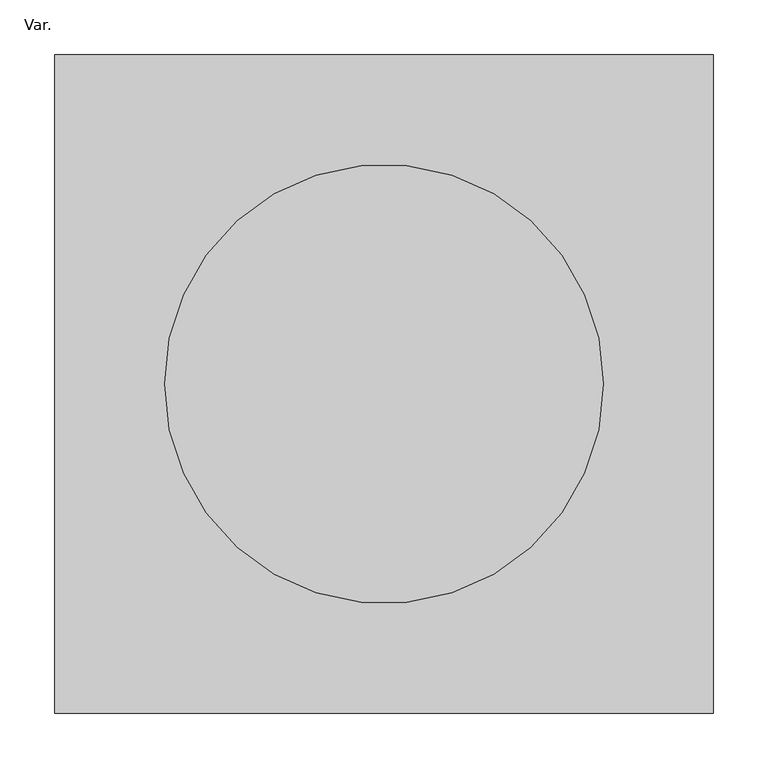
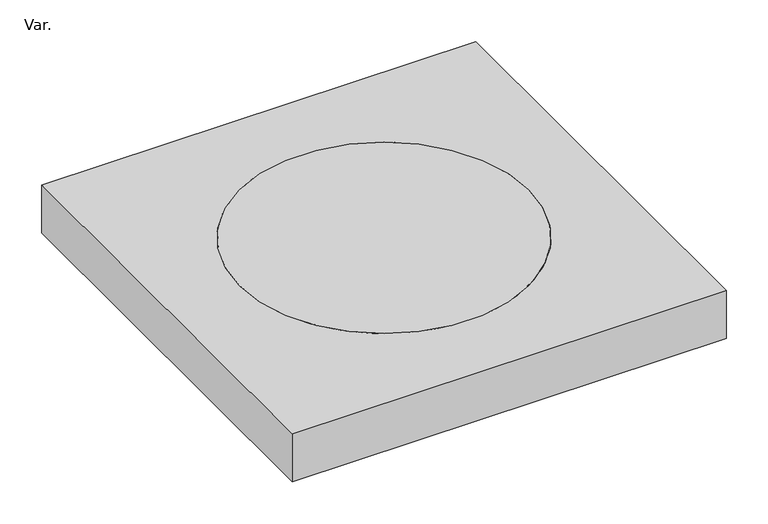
"""IFC4 building model written with IfcOpenShell, lengths in millimetres: pipe fitting geometry, NLRS-90-PIF_Z_DO_NOT_USE_Wavin PVC Buitenriolering Betoninlaat (Nested) : Var.."""

import ifcopenshell
import ifcopenshell.guid

model = None  # the IFC model being written
_history = None  # IfcOwnerHistory: only IFC2X3 demands one
_inside = {}  # id of a spatial element -> (the spatial element, [elements in it])
_under = {}  # id of a project, library or spatial element -> (it, [spatial elements below it])
_declared = {}  # id of a project -> (the project, [libraries it declares])
_typed = {}  # id of a type object -> (the type object, [elements of that type])
_made_of = {}  # id of a material, layer set ... -> (it, [elements and type objects made of it])


def new_model(schema):
    """Start an empty IFC model of exactly this schema.

    Asked for "IFC4X3", IfcOpenShell would pick the latest addendum, in which some entities
    have other attributes; the version numbers below select the first issue.
    IFC2X3 requires an IfcOwnerHistory on every rooted entity: one is made here for all.
    """
    global model, _history
    if schema == "IFC4X3":
        model = ifcopenshell.file(schema_version=(4, 3, 0, 0))
    else:
        model = ifcopenshell.file(schema=schema)
    _inside.clear()
    _under.clear()
    _declared.clear()
    _typed.clear()
    _made_of.clear()
    _history = None
    if model.schema == "IFC2X3":
        org = make("IfcOrganization", Name="unknown")
        user = make(
            "IfcPersonAndOrganization",
            ThePerson=make("IfcPerson", FamilyName="unknown"),
            TheOrganization=org,
        )
        app = make(
            "IfcApplication",
            ApplicationDeveloper=org,
            Version="unknown",
            ApplicationFullName="unknown",
            ApplicationIdentifier="unknown",
        )
        _history = make(
            "IfcOwnerHistory",
            OwningUser=user,
            OwningApplication=app,
            ChangeAction="ADDED",
            CreationDate=0,
        )
    return model


def make(cls, **values):
    """One entity of the class cls with the attributes given. An attribute that is None is left unset."""
    return model.create_entity(
        cls, **{name: value for name, value in values.items() if value is not None}
    )


def rooted(cls, **values):
    """An entity with a GlobalId (a new one), such as an element, a storey or a relation."""
    return make(cls, GlobalId=ifcopenshell.guid.new(), OwnerHistory=_history, **values)


def si_unit(unit_type, name, prefix=None):
    """IfcSIUnit, for example si_unit("LENGTHUNIT", "METRE", prefix="MILLI")."""
    return make("IfcSIUnit", UnitType=unit_type, Prefix=prefix, Name=name)


def assignment(units):
    """IfcUnitAssignment: the units of a project."""
    return None if units is None else make("IfcUnitAssignment", Units=units)


def point(xyz):
    """IfcCartesianPoint."""
    return None if xyz is None else make("IfcCartesianPoint", Coordinates=xyz)


def direction(xyz):
    """IfcDirection."""
    return None if xyz is None else make("IfcDirection", DirectionRatios=xyz)


def frame(location, z_axis=None, x_axis=None):
    """IfcAxis2Placement3D, a coordinate frame: its origin and axes. An axis left out is left unset."""
    return make(
        "IfcAxis2Placement3D",
        Location=point(location),
        Axis=direction(z_axis),
        RefDirection=direction(x_axis),
    )


def frame_2d(location, x_axis=None):
    """IfcAxis2Placement2D, a coordinate frame in the plane: its origin and x axis."""
    return make(
        "IfcAxis2Placement2D", Location=point(location), RefDirection=direction(x_axis)
    )


def origin():
    """The frame at (0, 0, 0) with its axes left unset."""
    return frame((0.0, 0.0, 0.0))


def origin_2d():
    """The frame at (0, 0) in the plane with its x axis left unset."""
    return frame_2d((0.0, 0.0))


def place(relative_to, where):
    """IfcLocalPlacement: puts the frame where relative to a parent placement (None: the world)."""
    return make(
        "IfcLocalPlacement", PlacementRelTo=relative_to, RelativePlacement=where
    )


def context(
    kind, dimensions, precision=None, world=None, true_north=None, identifier=None
):
    """IfcGeometricRepresentationContext, for example the 3D "Model" context."""
    return make(
        "IfcGeometricRepresentationContext",
        ContextIdentifier=identifier,
        ContextType=kind,
        CoordinateSpaceDimension=dimensions,
        Precision=precision,
        WorldCoordinateSystem=world,
        TrueNorth=true_north,
    )


def project(units=None, contexts=None):
    """IfcProject with its units and contexts."""
    return rooted(
        "IfcProject",
        Name="project",
        RepresentationContexts=contexts,
        UnitsInContext=assignment(units),
    )


def spatial(cls, under=None, at=None, **own):
    """A site, building, storey or space (cls), placed at a placement, below another one or the project."""
    s = rooted(cls, ObjectPlacement=at, **own)
    if under is not None:
        _under.setdefault(under.id(), (under, []))[1].append(s)
    return s


def polyline(points):
    """IfcPolyline through the points."""
    return make("IfcPolyline", Points=[point(p) for p in points])


def circle_curve(where, radius):
    """IfcCircle in the frame where."""
    return make("IfcCircle", Position=where, Radius=radius)


def trimmed(basis, trim1, trim2, sense, master):
    """IfcTrimmedCurve: the piece of a basis curve between two trims."""
    return make(
        "IfcTrimmedCurve",
        BasisCurve=basis,
        Trim1=trim1,
        Trim2=trim2,
        SenseAgreement=sense,
        MasterRepresentation=master,
    )


def segment(curve, same_sense, transition):
    """IfcCompositeCurveSegment."""
    return make(
        "IfcCompositeCurveSegment",
        Transition=transition,
        SameSense=same_sense,
        ParentCurve=curve,
    )


def composite_curve(segments, self_intersect=None):
    """IfcCompositeCurve: segments joined end to end."""
    return make("IfcCompositeCurve", Segments=segments, SelfIntersect=self_intersect)


def outline(outer, holes=None, kind="AREA"):
    """IfcArbitraryClosedProfileDef: a profile drawn as a closed curve; with holes, ...WithVoids."""
    if holes is None:
        return make("IfcArbitraryClosedProfileDef", ProfileType=kind, OuterCurve=outer)
    return make(
        "IfcArbitraryProfileDefWithVoids",
        ProfileType=kind,
        OuterCurve=outer,
        InnerCurves=holes,
    )


def extrude(swept, where, along, depth):
    """IfcExtrudedAreaSolid: the profile swept, set in the frame where, extruded along a direction by depth."""
    return make(
        "IfcExtrudedAreaSolid",
        SweptArea=swept,
        Position=where,
        ExtrudedDirection=direction(along),
        Depth=depth,
    )


def shape(context_of_items, identifier, shape_type, items):
    """IfcShapeRepresentation: the items that make up one representation, for example the "Body"."""
    return make(
        "IfcShapeRepresentation",
        ContextOfItems=context_of_items,
        RepresentationIdentifier=identifier,
        RepresentationType=shape_type,
        Items=items,
    )


def source(mapping_origin, context_of_items, identifier, shape_type, items):
    """IfcRepresentationMap: a shape defined once, which mapped items show again and again."""
    return make(
        "IfcRepresentationMap",
        MappingOrigin=mapping_origin,
        MappedRepresentation=shape(context_of_items, identifier, shape_type, items),
    )


def transform(
    local_origin,
    x_axis=None,
    y_axis=None,
    z_axis=None,
    scale=None,
    scale2=None,
    scale3=None,
    uniform=True,
):
    """IfcCartesianTransformationOperator3D, or its non-uniform kind. x_axis, y_axis, z_axis: its Axis1, 2, 3."""
    if uniform:
        return make(
            "IfcCartesianTransformationOperator3D",
            Axis1=direction(x_axis),
            Axis2=direction(y_axis),
            LocalOrigin=point(local_origin),
            Scale=scale,
            Axis3=direction(z_axis),
        )
    return make(
        "IfcCartesianTransformationOperator3DnonUniform",
        Axis1=direction(x_axis),
        Axis2=direction(y_axis),
        LocalOrigin=point(local_origin),
        Scale=scale,
        Axis3=direction(z_axis),
        Scale2=scale2,
        Scale3=scale3,
    )


def mapped(mapping_source, mapping_target):
    """IfcMappedItem: shows the shape of a source again, moved by a transform."""
    return make(
        "IfcMappedItem", MappingSource=mapping_source, MappingTarget=mapping_target
    )


def made_of(thing, what):
    """Note that an element or type object is made of a material, layer set ...; save() writes the relation."""
    if what is not None:
        _made_of.setdefault(what.id(), (what, []))[1].append(thing)
    return thing


def element(
    cls,
    number,
    at=None,
    inside=None,
    cuts=None,
    type_object=None,
    material=None,
    context=None,
    identifier="Body",
    shape_type=None,
    held_by="IfcProductDefinitionShape",
    body=None,
    shapes=None,
    **own,
):
    """One element of the class cls, such as IfcWall. Its Tag is "e" and its number.

    at: its placement. inside: the storey or other place that contains it. cuts: it is an
    opening in that element (IfcRelVoidsElement). A single representation is given by context,
    identifier, shape_type and body (its items); several are given by shapes. held_by: the class
    of the entity that holds the representations. save() writes the other relations.
    """
    e = rooted(cls, Tag="e%d" % number, ObjectPlacement=at, **own)
    if body is not None:
        shapes = [shape(context, identifier, shape_type, body)]
    if shapes is not None:
        e.Representation = make(held_by, Representations=shapes)
    if inside is not None:
        _inside.setdefault(inside.id(), (inside, []))[1].append(e)
    if cuts is not None:
        rooted(
            "IfcRelVoidsElement", RelatingBuildingElement=cuts, RelatedOpeningElement=e
        )
    if type_object is not None:
        _typed.setdefault(type_object.id(), (type_object, []))[1].append(e)
    return made_of(e, material)


def aggregate(whole, parts):
    """IfcRelAggregates: a whole, such as a stair, and the parts it consists of."""
    return rooted("IfcRelAggregates", RelatingObject=whole, RelatedObjects=parts)


def save(model, path):
    """Write the relations noted so far, then the file.

    IfcRelAggregates (storeys below a building ...), IfcRelContainedInSpatialStructure (elements
    in a storey), IfcRelDefinesByType, IfcRelAssociatesMaterial and IfcRelDeclares: one each for
    every whole, place, type object, material and project.
    """
    for whole, parts in _under.values():
        aggregate(whole, parts)
    for where, things in _inside.values():
        rooted(
            "IfcRelContainedInSpatialStructure",
            RelatedElements=things,
            RelatingStructure=where,
        )
    for kind, things in _typed.values():
        rooted("IfcRelDefinesByType", RelatedObjects=things, RelatingType=kind)
    for what, things in _made_of.values():
        rooted("IfcRelAssociatesMaterial", RelatedObjects=things, RelatingMaterial=what)
    for by, libraries in _declared.values():
        rooted("IfcRelDeclares", RelatingContext=by, RelatedDefinitions=libraries)
    model.write(path)


def var_113e7091(model_context):
    return source(origin(), model_context, "Body", "SweptSolid", [
        extrude(outline(composite_curve([segment(trimmed(circle_curve(origin_2d(), 200.0), [point((-200.0, 0.0))], [point((200.0, 0.0))], False, "CARTESIAN"), True, "CONTINUOUS"), segment(trimmed(circle_curve(origin_2d(), 200.0), [point((200.0, 0.0))], [point((-200.0, 0.0))], False, "CARTESIAN"), True, "CONTINUOUS")], self_intersect=False)), frame((0.0, 0.0, -35.0), z_axis=(0.0, 0.0, 1.0), x_axis=(1.0, 0.0, 0.0)), (0.0, 0.0, 1.0), 70.0),
        extrude(outline(polyline([(300.0, 300.0), (300.0, -300.0), (-300.0, -300.0), (-300.0, 300.0), (300.0, 300.0)]), holes=[composite_curve([segment(trimmed(circle_curve(origin_2d(), 200.0), [point((-200.0, 0.0))], [point((200.0, 0.0))], True, "CARTESIAN"), True, "CONTINUOUS"), segment(trimmed(circle_curve(origin_2d(), 200.0), [point((200.0, 0.0))], [point((-200.0, 0.0))], True, "CARTESIAN"), True, "CONTINUOUS")], self_intersect=False)]), frame((0.0, 0.0, -35.0), z_axis=(0.0, 0.0, 1.0), x_axis=(1.0, 0.0, 0.0)), (0.0, 0.0, 1.0), 70.0),
    ])


if __name__ == "__main__":
    model = new_model("IFC4")
    model_context = context("Model", 3, world=origin())
    ifc_project = project(units=[si_unit("LENGTHUNIT", "METRE", prefix="MILLI")], contexts=[model_context])
    site = spatial("IfcSite", under=ifc_project)
    building = spatial("IfcBuilding", under=site)
    placement = place(None, origin())
    var_shape = var_113e7091(model_context)
    element("IfcPipeFitting", 1, ObjectType="NLRS-90-PIF_Z_DO_NOT_USE_Wavin PVC Buitenriolering Betoninlaat (Nested) : Var.", at=placement, inside=building, context=model_context, shape_type="MappedRepresentation", body=[
        mapped(var_shape, transform((0.0, 0.0, 0.0), x_axis=(1.0, 0.0, 0.0), y_axis=(0.0, 1.0, 0.0), z_axis=(0.0, 0.0, 1.0))),
    ])
    save(model, "model.ifc")
